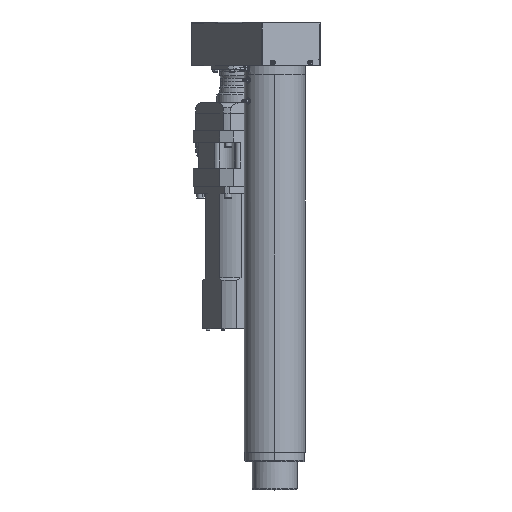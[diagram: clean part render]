
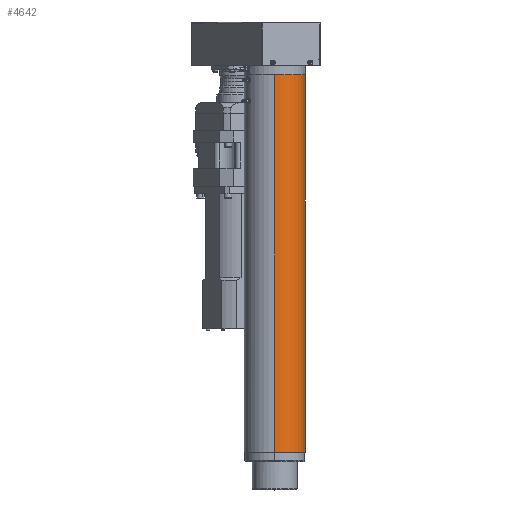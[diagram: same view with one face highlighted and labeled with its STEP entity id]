
A CAD part, top view. The second image highlights one B-rep face of the part: STEP entity #4642.
In plain terms, the highlighted cylindrical face has radius 64.5 mm (diameter 129 mm), a partial arc.
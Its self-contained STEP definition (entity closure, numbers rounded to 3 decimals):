
#1411 = VECTOR ( 'NONE', #45008, 1000. ) ;
#1880 = FACE_OUTER_BOUND ( 'NONE', #26531, .T. ) ;
#3639 = EDGE_CURVE ( 'NONE', #8168, #34535, #61281, .T. ) ;
#4642 = ADVANCED_FACE ( 'NONE', ( #1880 ), #62501, .T. ) ;
#5271 = LINE ( 'NONE', #40697, #1411 ) ;
#6786 = AXIS2_PLACEMENT_3D ( 'NONE', #11629, #16316, #36087 ) ;
#8168 = VERTEX_POINT ( 'NONE', #60408 ) ;
#10437 = VERTEX_POINT ( 'NONE', #47796 ) ;
#11629 = CARTESIAN_POINT ( 'NONE',  ( 71.219, -198.379, 97.194 ) ) ;
#12502 = AXIS2_PLACEMENT_3D ( 'NONE', #23973, #14012, #64367 ) ;
#12563 = VERTEX_POINT ( 'NONE', #26861 ) ;
#14012 = DIRECTION ( 'NONE',  ( 0., -1., 0. ) ) ;
#16316 = DIRECTION ( 'NONE',  ( 0., -1., 0. ) ) ;
#19590 = CARTESIAN_POINT ( 'NONE',  ( 71.219, -198.379, 161.694 ) ) ;
#21196 = DIRECTION ( 'NONE',  ( 0., 0., -1. ) ) ;
#23973 = CARTESIAN_POINT ( 'NONE',  ( 71.219, 622.121, 97.194 ) ) ;
#25413 = ORIENTED_EDGE ( 'NONE', *, *, #27537, .F. ) ;
#26531 = EDGE_LOOP ( 'NONE', ( #50305, #65244, #61750, #25413 ) ) ;
#26861 = CARTESIAN_POINT ( 'NONE',  ( 71.219, 622.121, 161.694 ) ) ;
#27537 = EDGE_CURVE ( 'NONE', #10437, #8168, #5271, .T. ) ;
#29994 = CARTESIAN_POINT ( 'NONE',  ( 71.219, -178.379, 161.694 ) ) ;
#32542 = CIRCLE ( 'NONE', #12502, 64.5 ) ;
#34258 = EDGE_CURVE ( 'NONE', #10437, #12563, #32542, .T. ) ;
#34535 = VERTEX_POINT ( 'NONE', #29994 ) ;
#36087 = DIRECTION ( 'NONE',  ( 0., 0., -1. ) ) ;
#40697 = CARTESIAN_POINT ( 'NONE',  ( 71.219, -198.379, 32.694 ) ) ;
#45008 = DIRECTION ( 'NONE',  ( 0., -1., 0. ) ) ;
#47796 = CARTESIAN_POINT ( 'NONE',  ( 71.219, 622.121, 32.694 ) ) ;
#50305 = ORIENTED_EDGE ( 'NONE', *, *, #34258, .T. ) ;
#53434 = VECTOR ( 'NONE', #59289, 1000. ) ;
#54943 = EDGE_CURVE ( 'NONE', #12563, #34535, #64922, .T. ) ;
#59289 = DIRECTION ( 'NONE',  ( 0., -1., 0. ) ) ;
#60408 = CARTESIAN_POINT ( 'NONE',  ( 71.219, -178.379, 32.694 ) ) ;
#60613 = DIRECTION ( 'NONE',  ( 0., -1., 0. ) ) ;
#61281 = CIRCLE ( 'NONE', #65536, 64.5 ) ;
#61750 = ORIENTED_EDGE ( 'NONE', *, *, #3639, .F. ) ;
#62501 = CYLINDRICAL_SURFACE ( 'NONE', #6786, 64.5 ) ;
#64367 = DIRECTION ( 'NONE',  ( 0., 0., -1. ) ) ;
#64922 = LINE ( 'NONE', #19590, #53434 ) ;
#65244 = ORIENTED_EDGE ( 'NONE', *, *, #54943, .T. ) ;
#65252 = CARTESIAN_POINT ( 'NONE',  ( 71.219, -178.379, 97.194 ) ) ;
#65536 = AXIS2_PLACEMENT_3D ( 'NONE', #65252, #60613, #21196 ) ;
